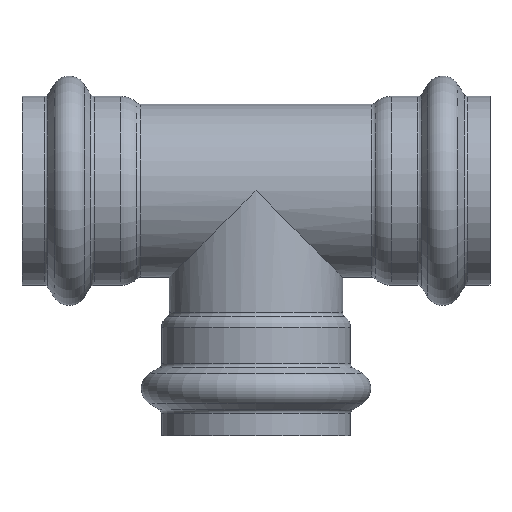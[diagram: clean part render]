
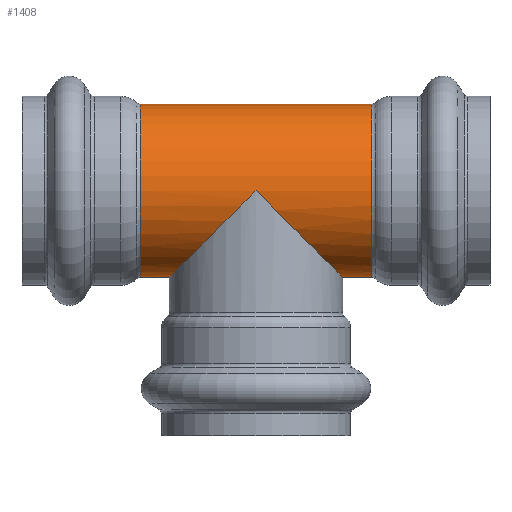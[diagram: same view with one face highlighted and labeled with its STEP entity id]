
A CAD part, top view. The second image highlights one B-rep face of the part: STEP entity #1408.
In plain terms, the highlighted cylindrical face has radius 30.163 mm (diameter 60.325 mm), a full revolution.
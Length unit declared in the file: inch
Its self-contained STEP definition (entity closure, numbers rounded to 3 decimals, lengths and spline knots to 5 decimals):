
#134=FACE_OUTER_BOUND('',#197,.T.);
#197=EDGE_LOOP('',(#1132,#1133,#1134,#1135,#1136,#1137,#1138,#1139,#1140,
#1141,#1142,#1143,#1144,#1145));
#334=CIRCLE('',#1613,1.1875);
#335=CIRCLE('',#1614,1.1875);
#336=CIRCLE('',#1615,1.1875);
#337=CIRCLE('',#1617,1.1875);
#338=CIRCLE('',#1618,1.1875);
#339=CIRCLE('',#1619,1.1875);
#420=LINE('',#2574,#450);
#421=LINE('',#2575,#451);
#450=VECTOR('',#2076,1.1875);
#451=VECTOR('',#2077,1.1875);
#464=ELLIPSE('',#1487,1.67938,1.1875);
#465=ELLIPSE('',#1488,1.67938,1.1875);
#466=ELLIPSE('',#1489,1.67938,1.1875);
#467=ELLIPSE('',#1490,1.67938,1.1875);
#492=VERTEX_POINT('',#2340);
#493=VERTEX_POINT('',#2341);
#494=VERTEX_POINT('',#2343);
#495=VERTEX_POINT('',#2345);
#572=VERTEX_POINT('',#2561);
#573=VERTEX_POINT('',#2563);
#574=VERTEX_POINT('',#2565);
#575=VERTEX_POINT('',#2569);
#576=VERTEX_POINT('',#2570);
#577=VERTEX_POINT('',#2572);
#661=EDGE_CURVE('',#492,#493,#464,.T.);
#662=EDGE_CURVE('',#494,#492,#465,.T.);
#663=EDGE_CURVE('',#495,#494,#466,.T.);
#665=EDGE_CURVE('',#493,#495,#467,.T.);
#772=EDGE_CURVE('',#573,#572,#334,.T.);
#773=EDGE_CURVE('',#574,#573,#335,.T.);
#774=EDGE_CURVE('',#572,#574,#336,.T.);
#775=EDGE_CURVE('',#575,#576,#337,.T.);
#776=EDGE_CURVE('',#577,#575,#338,.T.);
#777=EDGE_CURVE('',#577,#493,#420,.T.);
#778=EDGE_CURVE('',#494,#574,#421,.T.);
#779=EDGE_CURVE('',#576,#577,#339,.T.);
#1132=ORIENTED_EDGE('',*,*,#775,.F.);
#1133=ORIENTED_EDGE('',*,*,#776,.F.);
#1134=ORIENTED_EDGE('',*,*,#777,.T.);
#1135=ORIENTED_EDGE('',*,*,#665,.T.);
#1136=ORIENTED_EDGE('',*,*,#663,.T.);
#1137=ORIENTED_EDGE('',*,*,#778,.T.);
#1138=ORIENTED_EDGE('',*,*,#773,.T.);
#1139=ORIENTED_EDGE('',*,*,#772,.T.);
#1140=ORIENTED_EDGE('',*,*,#774,.T.);
#1141=ORIENTED_EDGE('',*,*,#778,.F.);
#1142=ORIENTED_EDGE('',*,*,#662,.T.);
#1143=ORIENTED_EDGE('',*,*,#661,.T.);
#1144=ORIENTED_EDGE('',*,*,#777,.F.);
#1145=ORIENTED_EDGE('',*,*,#779,.F.);
#1299=CYLINDRICAL_SURFACE('',#1616,1.1875);
#1408=ADVANCED_FACE('',(#134),#1299,.T.);
#1487=AXIS2_PLACEMENT_3D('',#2342,#1796,#1797);
#1488=AXIS2_PLACEMENT_3D('',#2344,#1798,#1799);
#1489=AXIS2_PLACEMENT_3D('',#2346,#1800,#1801);
#1490=AXIS2_PLACEMENT_3D('',#2348,#1803,#1804);
#1613=AXIS2_PLACEMENT_3D('',#2564,#2064,#2065);
#1614=AXIS2_PLACEMENT_3D('',#2566,#2066,#2067);
#1615=AXIS2_PLACEMENT_3D('',#2567,#2068,#2069);
#1616=AXIS2_PLACEMENT_3D('',#2568,#2070,#2071);
#1617=AXIS2_PLACEMENT_3D('',#2571,#2072,#2073);
#1618=AXIS2_PLACEMENT_3D('',#2573,#2074,#2075);
#1619=AXIS2_PLACEMENT_3D('',#2576,#2078,#2079);
#1796=DIRECTION('center_axis',(0.707,0.707,0.));
#1797=DIRECTION('ref_axis',(0.707,-0.707,0.));
#1798=DIRECTION('center_axis',(-0.707,0.707,0.));
#1799=DIRECTION('ref_axis',(0.707,0.707,0.));
#1800=DIRECTION('center_axis',(-0.707,0.707,0.));
#1801=DIRECTION('ref_axis',(0.707,0.707,0.));
#1803=DIRECTION('center_axis',(0.707,0.707,0.));
#1804=DIRECTION('ref_axis',(0.707,-0.707,0.));
#2064=DIRECTION('center_axis',(1.,0.,0.));
#2065=DIRECTION('ref_axis',(0.,1.,0.));
#2066=DIRECTION('center_axis',(1.,0.,0.));
#2067=DIRECTION('ref_axis',(0.,1.,0.));
#2068=DIRECTION('center_axis',(1.,0.,0.));
#2069=DIRECTION('ref_axis',(0.,1.,0.));
#2070=DIRECTION('center_axis',(1.,0.,0.));
#2071=DIRECTION('ref_axis',(0.,1.,0.));
#2072=DIRECTION('center_axis',(1.,0.,0.));
#2073=DIRECTION('ref_axis',(0.,1.,0.));
#2074=DIRECTION('center_axis',(1.,0.,0.));
#2075=DIRECTION('ref_axis',(0.,1.,0.));
#2076=DIRECTION('',(-1.,0.,0.));
#2077=DIRECTION('',(-1.,0.,0.));
#2078=DIRECTION('center_axis',(1.,0.,0.));
#2079=DIRECTION('ref_axis',(0.,1.,0.));
#2340=CARTESIAN_POINT('',(0.,0.,1.1875));
#2341=CARTESIAN_POINT('',(1.1875,-1.1875,0.));
#2342=CARTESIAN_POINT('Origin',(0.,0.,0.));
#2343=CARTESIAN_POINT('',(-1.1875,-1.1875,0.));
#2344=CARTESIAN_POINT('Origin',(0.,0.,0.));
#2345=CARTESIAN_POINT('',(0.,0.,-1.1875));
#2346=CARTESIAN_POINT('Origin',(0.,0.,0.));
#2348=CARTESIAN_POINT('Origin',(0.,0.,0.));
#2561=CARTESIAN_POINT('',(-1.58535,0.,1.1875));
#2563=CARTESIAN_POINT('',(-1.58535,1.1875,0.));
#2564=CARTESIAN_POINT('Origin',(-1.58535,0.,0.));
#2565=CARTESIAN_POINT('',(-1.58535,-1.1875,0.));
#2566=CARTESIAN_POINT('Origin',(-1.58535,0.,0.));
#2567=CARTESIAN_POINT('Origin',(-1.58535,0.,0.));
#2568=CARTESIAN_POINT('Origin',(0.79268,0.,0.));
#2569=CARTESIAN_POINT('',(1.58535,1.1875,0.));
#2570=CARTESIAN_POINT('',(1.58535,0.,1.1875));
#2571=CARTESIAN_POINT('Origin',(1.58535,0.,0.));
#2572=CARTESIAN_POINT('',(1.58535,-1.1875,0.));
#2573=CARTESIAN_POINT('Origin',(1.58535,0.,0.));
#2574=CARTESIAN_POINT('',(0.79268,-1.1875,0.));
#2575=CARTESIAN_POINT('',(0.79268,-1.1875,0.));
#2576=CARTESIAN_POINT('Origin',(1.58535,0.,0.));
